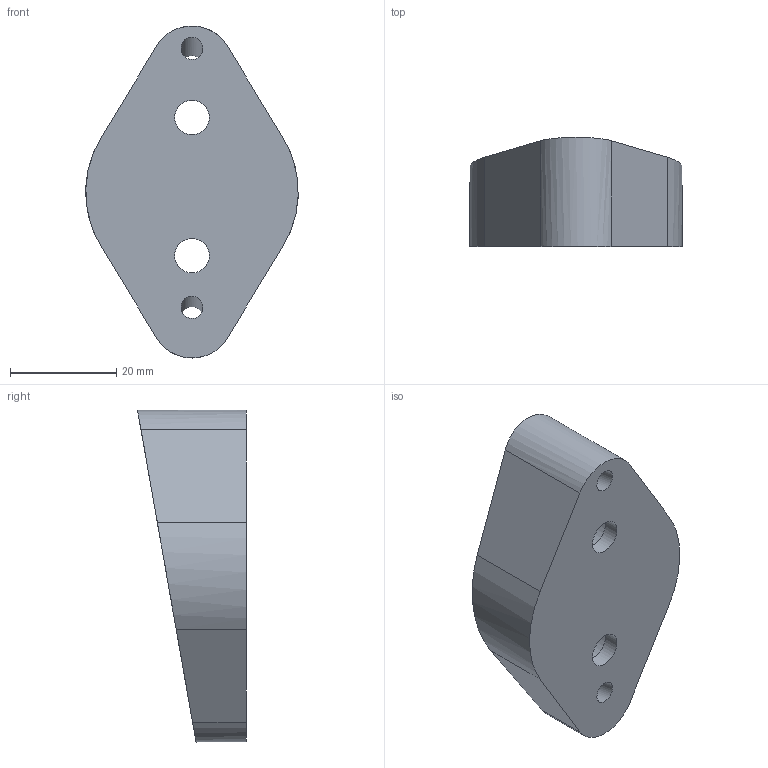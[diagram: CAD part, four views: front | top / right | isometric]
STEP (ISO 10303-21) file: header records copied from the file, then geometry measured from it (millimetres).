
FILE_DESCRIPTION(/* description */ (''),/* implementation_level */ '2;1');
FILE_NAME(/* name */ 'D:\_Vault\Workspace\Projektordner\3-Sensoren\02-STS\12-PSENmlock Zubehör\03-Kundendaten/2027569_A_PSEN_ml_actuator_10deg_adapter.stp',/* time_stamp */ '2019-02-04T14:59:13+01:00',/* author */ ('prim'),/* organization */ (''),/* preprocessor_version */ 'ST-DEVELOPER v17.2',/* originating_system */ 'Autodesk Inventor 2019',/* authorisation */ '');
FILE_SCHEMA (('AUTOMOTIVE_DESIGN { 1 0 10303 214 3 1 1 }'));
Length unit declared in the file: millimetre
Products named in the file (1): 2027569
Bounding box: 39.97 x 20.5 x 62.49 mm (x, y, z)
Volume: 22130.9 mm3; surface area: 6872.3 mm2
Topology: 1 solids, 1 shells, 18 faces, 50 edges, 36 vertices
Faces by surface type: plane 8, cylinder 6, bspline 4
Full cylindrical faces by diameter (mm): 4.134 x2, 6.5 x2, 11 x2
Entity records: 675 total; most frequent: CARTESIAN_POINT 133, DIRECTION 108, ORIENTED_EDGE 100, EDGE_CURVE 50, AXIS2_PLACEMENT_3D 43, VERTEX_POINT 36, EDGE_LOOP 28, LINE 22
